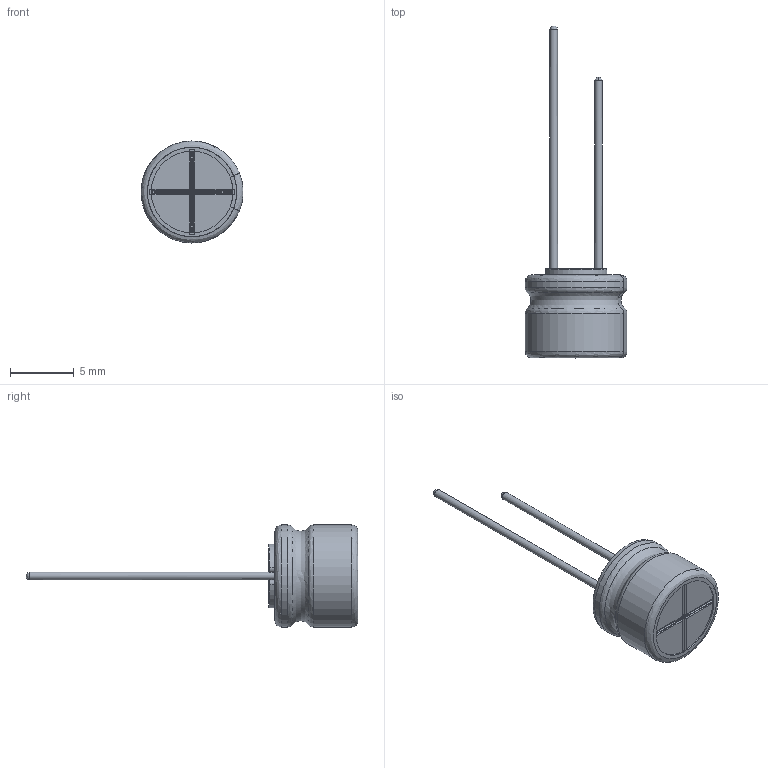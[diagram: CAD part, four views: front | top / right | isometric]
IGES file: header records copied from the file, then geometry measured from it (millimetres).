
Start section: JAMA-IS VERSION  1.0
Bounding box: 7.99 x 26 x 8 mm (x, y, z)
Surface area: 705.1 mm2 (no closed solid volume)
Topology: 0 solids, 0 shells, 115 faces, 1347 edges, 1328 vertices
Faces by surface type: bspline 115
